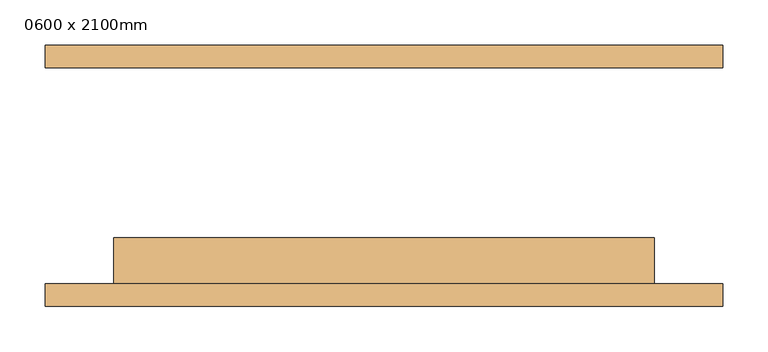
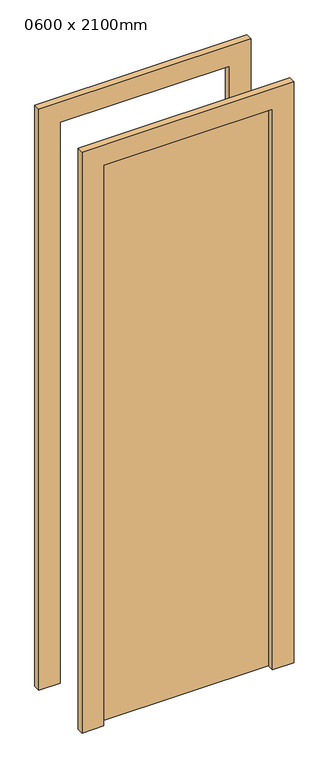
"""IFC4 building model written with IfcOpenShell, lengths in millimetres: door geometry, M_Folha única : 0600 x 2100mm."""

from ifc_helpers import new_model, si_unit, frame, origin, origin_with_axes, place, context, project, spatial, polyline, outline, extrude, source, transform, mapped, element, save


def door_0600_x_2100mm_ea00ed2a(model_context):
    return source(origin(), model_context, "Body", "SweptSolid", [
        extrude(outline(polyline([(2176.0, -376.0), (0.0, -376.0), (0.0, -300.0), (2100.0, -300.0), (2100.0, 300.0), (0.0, 300.0), (0.0, 376.0), (2176.0, 376.0), (2176.0, -376.0)])), frame((0.0, -145.0, 0.0), z_axis=(0.0, 1.0, 0.0), x_axis=(0.0, 0.0, 1.0)), (0.0, 0.0, 1.0), 25.0),
        extrude(outline(polyline([(2176.0, 376.0), (2176.0, -376.0), (0.0, -376.0), (0.0, -300.0), (2100.0, -300.0), (2100.0, 300.0), (0.0, 300.0), (0.0, 376.0), (2176.0, 376.0)])), frame((0.0, 120.0, 0.0), z_axis=(0.0, 1.0, 0.0), x_axis=(0.0, 0.0, 1.0)), (0.0, 0.0, 1.0), 25.0),
        extrude(outline(polyline([(300.0, -69.0), (300.0, -120.0), (-300.0, -120.0), (-300.0, -69.0), (300.0, -69.0)])), origin_with_axes(), (0.0, 0.0, 1.0), 2100.0),
    ])


if __name__ == "__main__":
    model = new_model("IFC4")
    model_context = context("Model", 3, world=origin())
    ifc_project = project(units=[si_unit("LENGTHUNIT", "METRE", prefix="MILLI")], contexts=[model_context])
    site = spatial("IfcSite", under=ifc_project)
    building = spatial("IfcBuilding", under=site)
    placement = place(None, origin())
    door_0600_x_2100mm_shape = door_0600_x_2100mm_ea00ed2a(model_context)
    element("IfcDoor", 1, ObjectType="M_Folha única : 0600 x 2100mm", at=placement, inside=building, context=model_context, shape_type="MappedRepresentation", body=[
        mapped(door_0600_x_2100mm_shape, transform((0.0, 0.0, 0.0), x_axis=(1.0, 0.0, 0.0), y_axis=(0.0, 1.0, 0.0), z_axis=(0.0, 0.0, 1.0))),
    ])
    save(model, "model.ifc")
